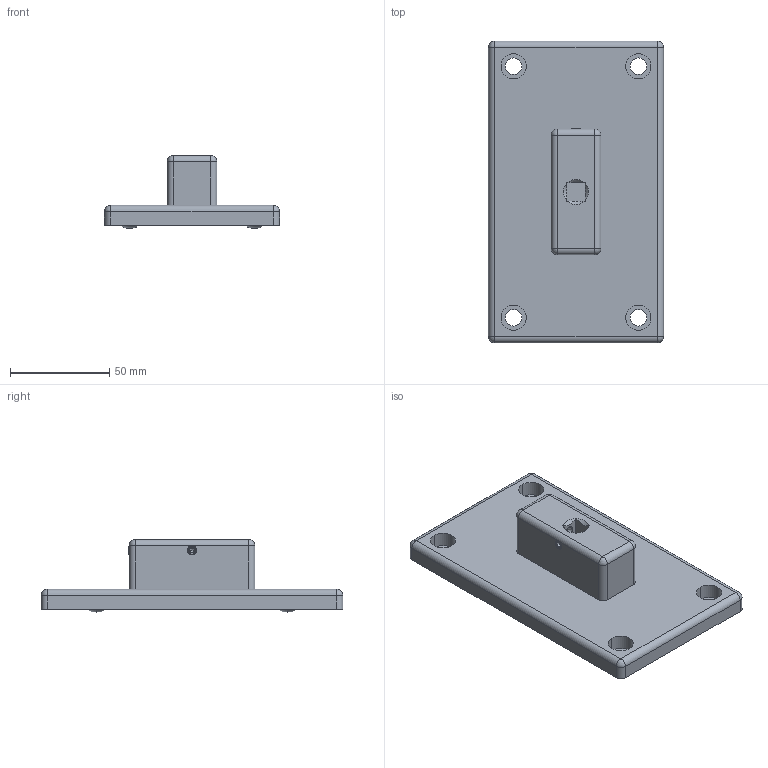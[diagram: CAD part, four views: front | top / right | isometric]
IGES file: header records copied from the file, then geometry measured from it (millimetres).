
Global section: file name: No Iges File Name specified; native system: Autodesk Inventor 2010; preprocessor: AutoDesk Inventor Iges Exporter R2010; author: mlampen; date: 20170424.122053; units: inch
Bounding box: 88.39 x 152.4 x 36.83 mm (x, y, z)
Volume: 166899.5 mm3; surface area: 40171.2 mm2
Topology: 11 solids, 11 shells, 358 faces, 862 edges, 502 vertices
Faces by surface type: revolution 108, plane 94, cone 76, cylinder 60, sphere 16, torus 4
